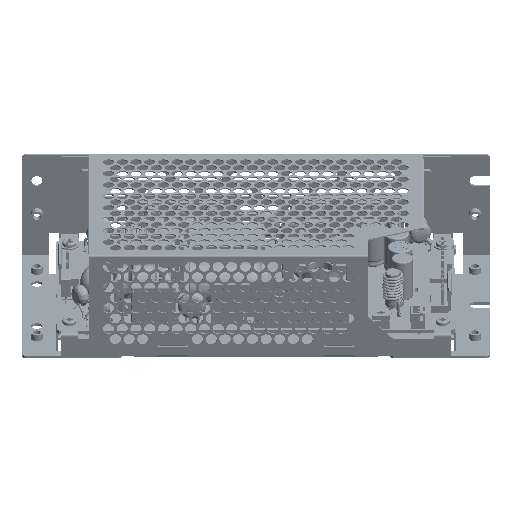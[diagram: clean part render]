
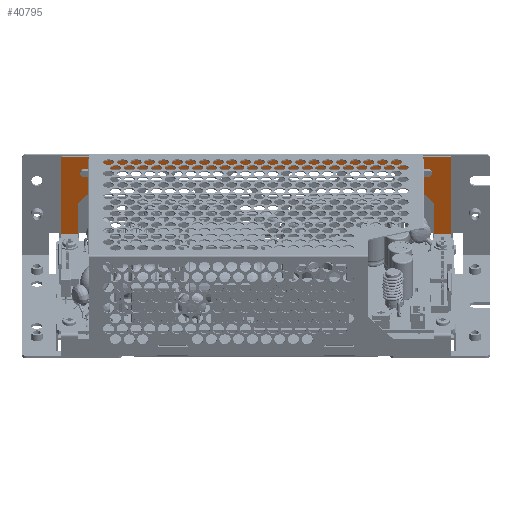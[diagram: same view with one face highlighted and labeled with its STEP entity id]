
A CAD part, top view. The second image highlights one B-rep face of the part: STEP entity #40795.
In plain terms, the highlighted planar face has unit normal (0, -0.485, 0.875) as drawn and (0, 0, 1) by its records, which use the part's own axes.
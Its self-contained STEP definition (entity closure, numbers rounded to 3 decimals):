
#24560=DIRECTION('',(1.,0.,0.));
#24561=VECTOR('',#24560,131.8);
#24562=CARTESIAN_POINT('',(-65.9,-6.,-41.5));
#24563=LINE('',#24562,#24561);
#24580=DIRECTION('',(0.,1.,0.));
#24581=VECTOR('',#24580,13.9);
#24582=CARTESIAN_POINT('',(-71.5,-35.9,-41.5));
#24583=LINE('',#24582,#24581);
#24662=CARTESIAN_POINT('',(77.5,-1.5,-41.5));
#24663=DIRECTION('',(0.,0.,-1.));
#24664=DIRECTION('',(0.,1.,0.));
#24665=AXIS2_PLACEMENT_3D('',#24662,#24663,#24664);
#24667=DIRECTION('',(0.,-1.,0.));
#24668=VECTOR('',#24667,34.4);
#24669=CARTESIAN_POINT('',(78.5,-1.5,-41.5));
#24670=LINE('',#24669,#24668);
#24671=DIRECTION('',(0.,1.,0.));
#24672=VECTOR('',#24671,13.9);
#24673=CARTESIAN_POINT('',(71.5,-35.9,-41.5));
#24674=LINE('',#24673,#24672);
#24675=DIRECTION('',(-0.682,0.731,0.));
#24676=VECTOR('',#24675,8.207);
#24677=CARTESIAN_POINT('',(71.5,-22.,-41.5));
#24678=LINE('',#24677,#24676);
#24679=DIRECTION('',(0.,1.,0.));
#24680=VECTOR('',#24679,10.);
#24681=CARTESIAN_POINT('',(65.9,-16.,-41.5));
#24682=LINE('',#24681,#24680);
#24683=DIRECTION('',(0.,-1.,0.));
#24684=VECTOR('',#24683,10.);
#24685=CARTESIAN_POINT('',(-65.9,-6.,-41.5));
#24686=LINE('',#24685,#24684);
#24687=DIRECTION('',(-0.682,-0.731,0.));
#24688=VECTOR('',#24687,8.207);
#24689=CARTESIAN_POINT('',(-65.9,-16.,-41.5));
#24690=LINE('',#24689,#24688);
#24691=DIRECTION('',(0.,1.,0.));
#24692=VECTOR('',#24691,34.4);
#24693=CARTESIAN_POINT('',(-78.5,-35.9,-41.5));
#24694=LINE('',#24693,#24692);
#24695=CARTESIAN_POINT('',(-77.5,-1.5,-41.5));
#24696=DIRECTION('',(0.,0.,-1.));
#24697=DIRECTION('',(-1.,0.,0.));
#24698=AXIS2_PLACEMENT_3D('',#24695,#24696,#24697);
#24700=DIRECTION('',(1.,0.,0.));
#24701=VECTOR('',#24700,10.5);
#24702=CARTESIAN_POINT('',(-77.5,-0.5,-41.5));
#24703=LINE('',#24702,#24701);
#24704=DIRECTION('',(1.,0.,0.));
#24705=VECTOR('',#24704,134.);
#24706=CARTESIAN_POINT('',(-67.,-0.5,-41.5));
#24707=LINE('',#24706,#24705);
#24708=DIRECTION('',(1.,0.,0.));
#24709=VECTOR('',#24708,10.5);
#24710=CARTESIAN_POINT('',(67.,-0.5,-41.5));
#24711=LINE('',#24710,#24709);
#24712=DIRECTION('',(1.,0.,0.));
#24713=VECTOR('',#24712,7.);
#24714=CARTESIAN_POINT('',(71.5,-35.9,-41.5));
#24715=LINE('',#24714,#24713);
#24790=DIRECTION('',(1.,0.,0.));
#24791=VECTOR('',#24790,7.);
#24792=CARTESIAN_POINT('',(-78.5,-35.9,-41.5));
#24793=LINE('',#24792,#24791);
#30795=CARTESIAN_POINT('',(67.,-0.5,-41.5));
#30796=VERTEX_POINT('',#30795);
#30797=CARTESIAN_POINT('',(-67.,-0.5,-41.5));
#30798=VERTEX_POINT('',#30797);
#33463=CARTESIAN_POINT('',(-77.5,-0.5,-41.5));
#33465=VERTEX_POINT('',#33463);
#33468=CARTESIAN_POINT('',(-78.5,-1.5,-41.5));
#33469=VERTEX_POINT('',#33468);
#33496=CARTESIAN_POINT('',(78.5,-1.5,-41.5));
#33497=VERTEX_POINT('',#33496);
#33498=CARTESIAN_POINT('',(77.5,-0.5,-41.5));
#33499=VERTEX_POINT('',#33498);
#33500=CARTESIAN_POINT('',(78.5,-35.9,-41.5));
#33501=VERTEX_POINT('',#33500);
#33522=CARTESIAN_POINT('',(71.5,-35.9,-41.5));
#33523=VERTEX_POINT('',#33522);
#33524=CARTESIAN_POINT('',(71.5,-22.,-41.5));
#33525=VERTEX_POINT('',#33524);
#33526=CARTESIAN_POINT('',(65.9,-16.,-41.5));
#33527=VERTEX_POINT('',#33526);
#33528=CARTESIAN_POINT('',(65.9,-6.,-41.5));
#33529=VERTEX_POINT('',#33528);
#33530=CARTESIAN_POINT('',(-65.9,-6.,-41.5));
#33531=VERTEX_POINT('',#33530);
#33532=CARTESIAN_POINT('',(-65.9,-16.,-41.5));
#33533=VERTEX_POINT('',#33532);
#33534=CARTESIAN_POINT('',(-71.5,-22.,-41.5));
#33535=VERTEX_POINT('',#33534);
#33536=CARTESIAN_POINT('',(-71.5,-35.9,-41.5));
#33537=VERTEX_POINT('',#33536);
#33562=CARTESIAN_POINT('',(-78.5,-35.9,-41.5));
#33563=VERTEX_POINT('',#33562);
#40769=CARTESIAN_POINT('',(67.,0.,-41.5));
#40770=DIRECTION('',(0.,0.,-1.));
#40771=DIRECTION('',(1.,0.,0.));
#40772=AXIS2_PLACEMENT_3D('',#40769,#40770,#40771);
#40773=PLANE('',#40772);
#40774=ORIENTED_EDGE('',*,*,#40423,.T.);
#40775=ORIENTED_EDGE('',*,*,#40439,.T.);
#40777=ORIENTED_EDGE('',*,*,#40776,.F.);
#40778=ORIENTED_EDGE('',*,*,#40545,.T.);
#40779=ORIENTED_EDGE('',*,*,#40559,.T.);
#40780=ORIENTED_EDGE('',*,*,#40573,.T.);
#40781=ORIENTED_EDGE('',*,*,#40587,.F.);
#40782=ORIENTED_EDGE('',*,*,#40601,.T.);
#40783=ORIENTED_EDGE('',*,*,#40615,.T.);
#40784=ORIENTED_EDGE('',*,*,#40629,.F.);
#40786=ORIENTED_EDGE('',*,*,#40785,.F.);
#40787=ORIENTED_EDGE('',*,*,#40762,.T.);
#40788=ORIENTED_EDGE('',*,*,#40370,.T.);
#40789=ORIENTED_EDGE('',*,*,#40357,.T.);
#40790=ORIENTED_EDGE('',*,*,#35811,.T.);
#40792=ORIENTED_EDGE('',*,*,#40791,.T.);
#40793=EDGE_LOOP('',(#40774,#40775,#40777,#40778,#40779,#40780,#40781,#40782,
#40783,#40784,#40786,#40787,#40788,#40789,#40790,#40792));
#40794=FACE_OUTER_BOUND('',#40793,.F.);
#24666=CIRCLE('',#24665,1.);
#24699=CIRCLE('',#24698,1.);
#35811=EDGE_CURVE('',#30798,#30796,#24707,.T.);
#40357=EDGE_CURVE('',#33465,#30798,#24703,.T.);
#40370=EDGE_CURVE('',#33469,#33465,#24699,.T.);
#40423=EDGE_CURVE('',#33499,#33497,#24666,.T.);
#40439=EDGE_CURVE('',#33497,#33501,#24670,.T.);
#40545=EDGE_CURVE('',#33523,#33525,#24674,.T.);
#40559=EDGE_CURVE('',#33525,#33527,#24678,.T.);
#40573=EDGE_CURVE('',#33527,#33529,#24682,.T.);
#40587=EDGE_CURVE('',#33531,#33529,#24563,.T.);
#40601=EDGE_CURVE('',#33531,#33533,#24686,.T.);
#40615=EDGE_CURVE('',#33533,#33535,#24690,.T.);
#40629=EDGE_CURVE('',#33537,#33535,#24583,.T.);
#40762=EDGE_CURVE('',#33563,#33469,#24694,.T.);
#40776=EDGE_CURVE('',#33523,#33501,#24715,.T.);
#40785=EDGE_CURVE('',#33563,#33537,#24793,.T.);
#40791=EDGE_CURVE('',#30796,#33499,#24711,.T.);
#40795=ADVANCED_FACE('',(#40794),#40773,.F.);
